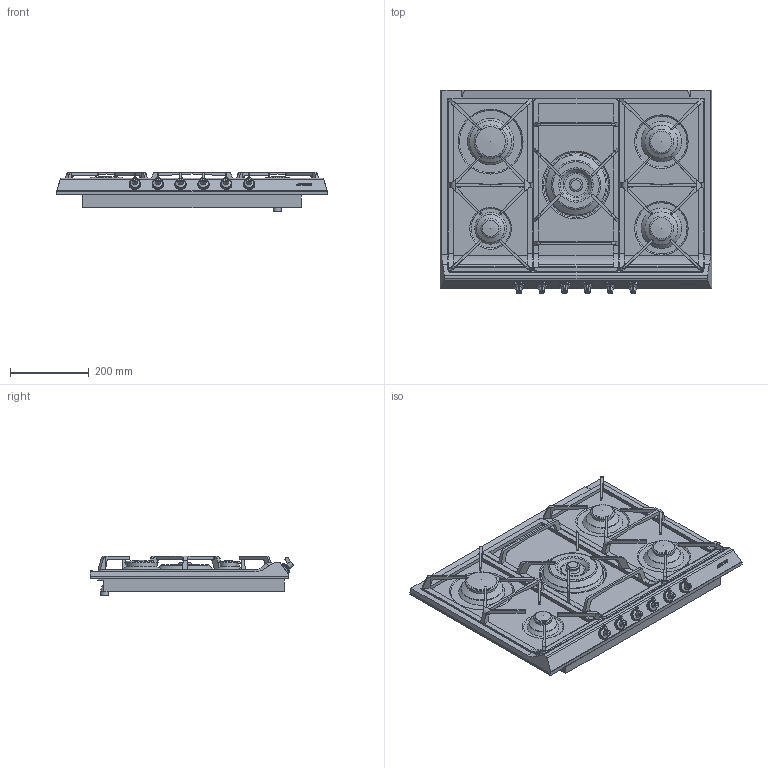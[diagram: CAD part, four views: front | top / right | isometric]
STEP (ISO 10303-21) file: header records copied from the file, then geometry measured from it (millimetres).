
FILE_DESCRIPTION(/* description */ (''),/* implementation_level */ '2;1');
FILE_NAME(/* name */ 'piano se70sgh-5.stp',/* time_stamp */ '2018-03-23T12:30:53+01:00',/* author */ (''),/* organization */ (''),/* preprocessor_version */ 'ST-DEVELOPER v16',/* originating_system */ 'SIEMENS PLM Software NX 11.0',/* authorisation */ '');
FILE_SCHEMA (('AUTOMOTIVE_DESIGN { 1 0 10303 214 3 1 1 1 }'));
Length unit declared in the file: millimetre
Products named in the file (1): gobb29D01FBC19tl
Bounding box: 688 x 516.56 x 101.5 mm (x, y, z)
Volume: 15175158 mm3; surface area: 1884602.8 mm2
Topology: 37 solids, 37 shells, 703 faces, 1759 edges, 1177 vertices
Faces by surface type: plane 417, cylinder 208, torus 26, cone 25, extrusion 11, sphere 8, bspline 8
Full cylindrical faces by diameter (mm): 3.37 x6, 6 x6, 8 x6, 13.5 x6, 20.5 x2, 23 x6, 25 x1, 27 x6, 29 x6, 33 x1, 42 x1, 43 x1, 55 x2, 56 x2, 70.5 x1, 77.5 x1, 78.5 x1, 83 x2, 106 x1, 111 x1, 113.5 x1, 122 x1, 152 x1
Entity records: 20684 total; most frequent: CARTESIAN_POINT 3884, DIRECTION 3475, ORIENTED_EDGE 3152, EDGE_CURVE 1576, AXIS2_PLACEMENT_3D 1221, VERTEX_POINT 1086, VECTOR 1033, LINE 1022
